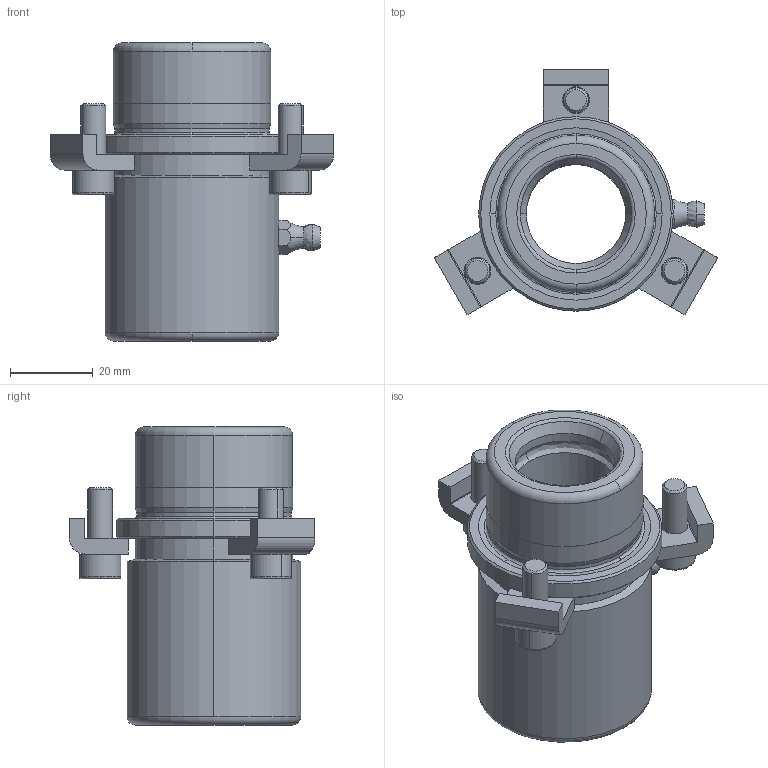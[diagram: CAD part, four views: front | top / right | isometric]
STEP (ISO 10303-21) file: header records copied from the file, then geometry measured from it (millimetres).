
FILE_DESCRIPTION((''),'2;1');
FILE_NAME('B10_024_050.stp','2008-11-04T16:51:34',(''),(''),'Mechanical Desktop 2009','Mechanical Desktop 2009',', , ');
FILE_SCHEMA(('CONFIG_CONTROL_DESIGN'));
Length unit declared in the file: millimetre
Products named in the file (2): Product; blmdl1
Assembly tree (1 placements, depth 2):
  Product
    blmdl1
Bounding box: 68.57 x 59.38 x 72 mm (x, y, z)
Volume: 66462 mm3; surface area: 22446.8 mm2
Topology: 8 solids, 8 shells, 170 faces, 427 edges, 280 vertices
Faces by surface type: plane 68, cylinder 48, cone 22, bspline 16, torus 16
Entity records: 6342 total; most frequent: CARTESIAN_POINT 2052, DIRECTION 933, ORIENTED_EDGE 846, EDGE_CURVE 423, AXIS2_PLACEMENT_3D 371, VERTEX_POINT 278, CIRCLE 215, VECTOR 191
